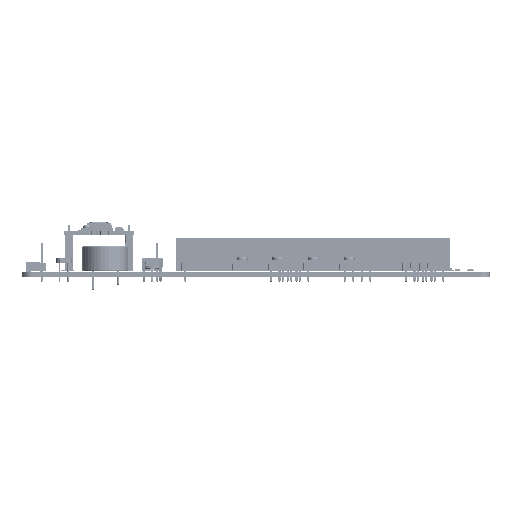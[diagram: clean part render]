
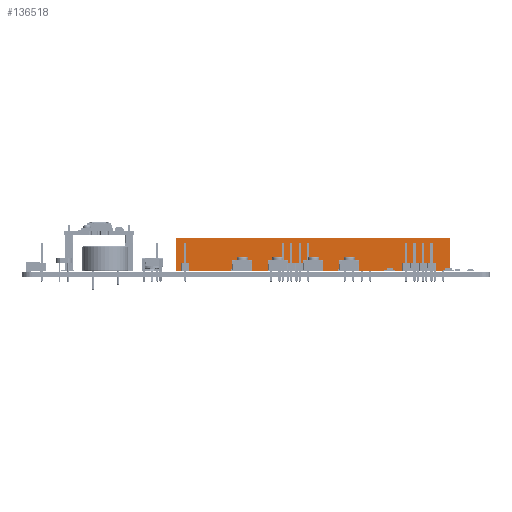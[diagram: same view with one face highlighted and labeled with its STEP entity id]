
A CAD part, front view. The second image highlights one B-rep face of the part: STEP entity #136518.
In plain terms, the highlighted planar face has unit normal (0, -1, 0) as drawn and (-1, 0, 0) by its records, which use the part's own axes.
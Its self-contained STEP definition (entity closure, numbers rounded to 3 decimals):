
#136395 = VERTEX_POINT('',#136396);
#136396 = CARTESIAN_POINT('',(-26.75,10.,-41.));
#136402 = EDGE_CURVE('',#136395,#136403,#136405,.T.);
#136403 = VERTEX_POINT('',#136404);
#136404 = CARTESIAN_POINT('',(-26.75,10.,41.));
#136405 = LINE('',#136406,#136407);
#136406 = CARTESIAN_POINT('',(-26.75,10.,41.));
#136407 = VECTOR('',#136408,1.);
#136408 = DIRECTION('',(0.,0.,1.));
#136518 = ADVANCED_FACE('',(#136519),#136544,.F.);
#136519 = FACE_BOUND('',#136520,.T.);
#136520 = EDGE_LOOP('',(#136521,#136531,#136537,#136538));
#136521 = ORIENTED_EDGE('',*,*,#136522,.T.);
#136522 = EDGE_CURVE('',#136523,#136525,#136527,.T.);
#136523 = VERTEX_POINT('',#136524);
#136524 = CARTESIAN_POINT('',(-26.75,0.,-41.));
#136525 = VERTEX_POINT('',#136526);
#136526 = CARTESIAN_POINT('',(-26.75,0.,41.));
#136527 = LINE('',#136528,#136529);
#136528 = CARTESIAN_POINT('',(-26.75,0.,41.));
#136529 = VECTOR('',#136530,1.);
#136530 = DIRECTION('',(0.,0.,1.));
#136531 = ORIENTED_EDGE('',*,*,#136532,.F.);
#136532 = EDGE_CURVE('',#136403,#136525,#136533,.T.);
#136533 = LINE('',#136534,#136535);
#136534 = CARTESIAN_POINT('',(-26.75,10.,41.));
#136535 = VECTOR('',#136536,1.);
#136536 = DIRECTION('',(0.,-1.,0.));
#136537 = ORIENTED_EDGE('',*,*,#136402,.F.);
#136538 = ORIENTED_EDGE('',*,*,#136539,.T.);
#136539 = EDGE_CURVE('',#136395,#136523,#136540,.T.);
#136540 = LINE('',#136541,#136542);
#136541 = CARTESIAN_POINT('',(-26.75,10.,-41.));
#136542 = VECTOR('',#136543,1.);
#136543 = DIRECTION('',(0.,-1.,0.));
#136544 = PLANE('',#136545);
#136545 = AXIS2_PLACEMENT_3D('',#136546,#136547,#136548);
#136546 = CARTESIAN_POINT('',(-26.75,10.,41.));
#136547 = DIRECTION('',(1.,0.,0.));
#136548 = DIRECTION('',(0.,0.,-1.));
